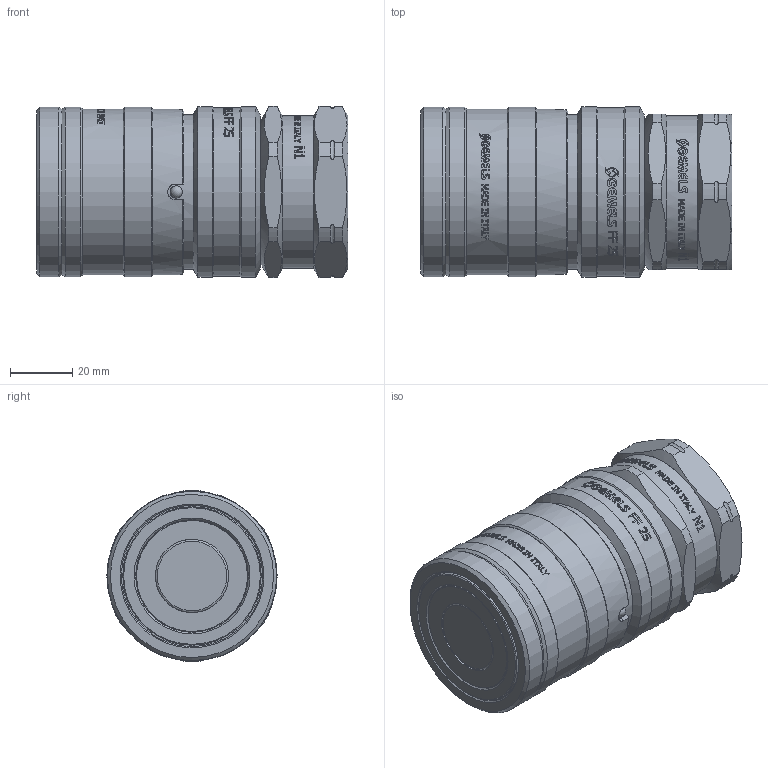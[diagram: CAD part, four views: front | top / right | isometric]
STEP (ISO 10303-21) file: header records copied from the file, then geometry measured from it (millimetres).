
FILE_DESCRIPTION(/* description */ (''),/* implementation_level */ '2;1');
FILE_NAME(/* name */ 'NC06N050002.stp',/* time_stamp */ '2024-08-26T17:07:24+02:00',/* author */ ('thomas.belotti'),/* organization */ (''),/* preprocessor_version */ 'ST-DEVELOPER v20',/* originating_system */ 'Autodesk Inventor 2024',/* authorisation */ '');
FILE_SCHEMA (('AUTOMOTIVE_DESIGN { 1 0 10303 214 3 1 1 }'));
Products named in the file (1): Parte20
Bounding box: 100.2 x 54.7 x 54.99 mm (x, y, z)
Volume: 203245 mm3; surface area: 35622.6 mm2
Topology: 1 solids, 4 shells, 1613 faces, 4565 edges, 3034 vertices
Faces by surface type: bspline 1027, plane 420, cylinder 121, cone 27, torus 12, sphere 6
Full cylindrical faces by diameter (mm): 3.9 x4, 23.55 x1, 23.6 x1, 28.575 x1, 29 x1, 36 x1, 36.2 x1, 44.5 x1, 45.4 x1, 46 x1, 46.3 x1, 49 x1, 49.315 x2, 49.5 x2, 49.7 x1, 53.2 x2, 54 x1, 54.4 x3, 54.7 x2
Entity records: 69163 total; most frequent: CARTESIAN_POINT 32426, ORIENTED_EDGE 9130, EDGE_CURVE 4565, DIRECTION 4148, VERTEX_POINT 3033, B_SPLINE_CURVE_WITH_KNOTS 2152, LINE 1796, VECTOR 1796
